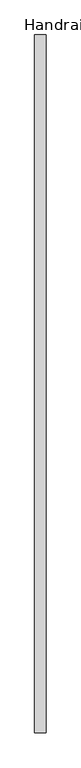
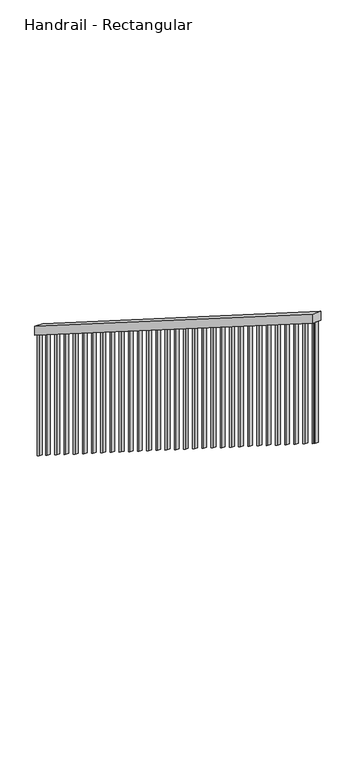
"""IFC4 building model written with IfcOpenShell, lengths in millimetres: railing geometry, Handrail - Rectangular."""

from ifc_helpers import new_model, si_unit, frame, origin, place, context, project, spatial, polyline, outline, extrude, source, transform, mapped, element, save


def handrail_rectangular_c0ad0beb(model_context):
    return source(origin(), model_context, "Body", "SweptSolid", [
        extrude(outline(polyline([(29625.2325698, 737.4193548), (29625.2325698, 677.2854912), (26551.8305304, 2624.0725879), (26551.8305304, 2684.2064516), (29625.2325698, 737.4193548)])), frame((-8661.4851755, 0.0, 0.0), z_axis=(1.0, 0.0, 0.0), x_axis=(0.0, 1.0, 0.0)), (0.0, 0.0, 1.0), 50.8),
        extrude(outline(polyline([(26586.7575698, 2601.9487301), (26586.7575698, 1785.4263775), (26567.7075698, 1797.4932316), (26567.7075698, 2614.0155843), (26586.7575698, 2601.9487301)])), frame((-8645.6101755, 0.0, 0.0), z_axis=(1.0, 0.0, 0.0), x_axis=(0.0, 1.0, 0.0)), (0.0, 0.0, 1.0), 19.05),
        extrude(outline(polyline([(26688.3575698, 2537.5921746), (26688.3575698, 1721.0698219), (26669.3075698, 1733.1366761), (26669.3075698, 2549.6590287), (26688.3575698, 2537.5921746)])), frame((-8645.6101755, 0.0, 0.0), z_axis=(1.0, 0.0, 0.0), x_axis=(0.0, 1.0, 0.0)), (0.0, 0.0, 1.0), 19.05),
        extrude(outline(polyline([(26789.9575698, 2473.2356191), (26789.9575698, 1656.7132664), (26770.9075698, 1668.7801206), (26770.9075698, 2485.3024732), (26789.9575698, 2473.2356191)])), frame((-8645.6101755, 0.0, 0.0), z_axis=(1.0, 0.0, 0.0), x_axis=(0.0, 1.0, 0.0)), (0.0, 0.0, 1.0), 19.05),
        extrude(outline(polyline([(26891.5575698, 2408.8790635), (26891.5575698, 1592.3567109), (26872.5075698, 1604.423565), (26872.5075698, 2420.9459177), (26891.5575698, 2408.8790635)])), frame((-8645.6101755, 0.0, 0.0), z_axis=(1.0, 0.0, 0.0), x_axis=(0.0, 1.0, 0.0)), (0.0, 0.0, 1.0), 19.05),
        extrude(outline(polyline([(26993.1575698, 2344.522508), (26993.1575698, 1528.0001553), (26974.1075698, 1540.0670095), (26974.1075698, 2356.5893621), (26993.1575698, 2344.522508)])), frame((-8645.6101755, 0.0, 0.0), z_axis=(1.0, 0.0, 0.0), x_axis=(0.0, 1.0, 0.0)), (0.0, 0.0, 1.0), 19.05),
        extrude(outline(polyline([(27094.7575698, 2280.1659524), (27094.7575698, 1463.6435998), (27075.7075698, 1475.710454), (27075.7075698, 2292.2328066), (27094.7575698, 2280.1659524)])), frame((-8645.6101755, 0.0, 0.0), z_axis=(1.0, 0.0, 0.0), x_axis=(0.0, 1.0, 0.0)), (0.0, 0.0, 1.0), 19.05),
        extrude(outline(polyline([(27196.3575698, 2215.8093969), (27196.3575698, 1399.2870443), (27177.3075698, 1411.3538984), (27177.3075698, 2227.8762511), (27196.3575698, 2215.8093969)])), frame((-8645.6101755, 0.0, 0.0), z_axis=(1.0, 0.0, 0.0), x_axis=(0.0, 1.0, 0.0)), (0.0, 0.0, 1.0), 19.05),
        extrude(outline(polyline([(27297.9575698, 2151.4528414), (27297.9575698, 1334.9304887), (27278.9075698, 1346.9973429), (27278.9075698, 2163.5196955), (27297.9575698, 2151.4528414)])), frame((-8645.6101755, 0.0, 0.0), z_axis=(1.0, 0.0, 0.0), x_axis=(0.0, 1.0, 0.0)), (0.0, 0.0, 1.0), 19.05),
        extrude(outline(polyline([(27399.5575698, 2087.0962858), (27399.5575698, 1270.5739332), (27380.5075698, 1282.6407874), (27380.5075698, 2099.16314), (27399.5575698, 2087.0962858)])), frame((-8645.6101755, 0.0, 0.0), z_axis=(1.0, 0.0, 0.0), x_axis=(0.0, 1.0, 0.0)), (0.0, 0.0, 1.0), 19.05),
        extrude(outline(polyline([(27501.1575698, 2022.7397303), (27501.1575698, 1206.2173777), (27482.1075698, 1218.2842318), (27482.1075698, 2034.8065845), (27501.1575698, 2022.7397303)])), frame((-8645.6101755, 0.0, 0.0), z_axis=(1.0, 0.0, 0.0), x_axis=(0.0, 1.0, 0.0)), (0.0, 0.0, 1.0), 19.05),
        extrude(outline(polyline([(27602.7575698, 1958.3831748), (27602.7575698, 1141.8608221), (27583.7075698, 1153.9276763), (27583.7075698, 1970.4500289), (27602.7575698, 1958.3831748)])), frame((-8645.6101755, 0.0, 0.0), z_axis=(1.0, 0.0, 0.0), x_axis=(0.0, 1.0, 0.0)), (0.0, 0.0, 1.0), 19.05),
        extrude(outline(polyline([(27704.3575698, 1894.0266192), (27704.3575698, 1077.5042666), (27685.3075698, 1089.5711207), (27685.3075698, 1906.0934734), (27704.3575698, 1894.0266192)])), frame((-8645.6101755, 0.0, 0.0), z_axis=(1.0, 0.0, 0.0), x_axis=(0.0, 1.0, 0.0)), (0.0, 0.0, 1.0), 19.05),
        extrude(outline(polyline([(27805.9575698, 1829.6700637), (27805.9575698, 1013.1477111), (27786.9075698, 1025.2145652), (27786.9075698, 1841.7369179), (27805.9575698, 1829.6700637)])), frame((-8645.6101755, 0.0, 0.0), z_axis=(1.0, 0.0, 0.0), x_axis=(0.0, 1.0, 0.0)), (0.0, 0.0, 1.0), 19.05),
        extrude(outline(polyline([(27907.5575698, 1765.3135082), (27907.5575698, 948.7911555), (27888.5075698, 960.8580097), (27888.5075698, 1777.3803623), (27907.5575698, 1765.3135082)])), frame((-8645.6101755, 0.0, 0.0), z_axis=(1.0, 0.0, 0.0), x_axis=(0.0, 1.0, 0.0)), (0.0, 0.0, 1.0), 19.05),
        extrude(outline(polyline([(28009.1575698, 1700.9569526), (28009.1575698, 884.4346), (27990.1075698, 896.5014541), (27990.1075698, 1713.0238068), (28009.1575698, 1700.9569526)])), frame((-8645.6101755, 0.0, 0.0), z_axis=(1.0, 0.0, 0.0), x_axis=(0.0, 1.0, 0.0)), (0.0, 0.0, 1.0), 19.05),
        extrude(outline(polyline([(28110.7575698, 1636.6003971), (28110.7575698, 820.0780444), (28091.7075698, 832.1448986), (28091.7075698, 1648.6672513), (28110.7575698, 1636.6003971)])), frame((-8645.6101755, 0.0, 0.0), z_axis=(1.0, 0.0, 0.0), x_axis=(0.0, 1.0, 0.0)), (0.0, 0.0, 1.0), 19.05),
        extrude(outline(polyline([(28212.3575698, 1572.2438416), (28212.3575698, 755.7214889), (28193.3075698, 767.7883431), (28193.3075698, 1584.3106957), (28212.3575698, 1572.2438416)])), frame((-8645.6101755, 0.0, 0.0), z_axis=(1.0, 0.0, 0.0), x_axis=(0.0, 1.0, 0.0)), (0.0, 0.0, 1.0), 19.05),
        extrude(outline(polyline([(28313.9575698, 1507.887286), (28313.9575698, 691.3649334), (28294.9075698, 703.4317875), (28294.9075698, 1519.9541402), (28313.9575698, 1507.887286)])), frame((-8645.6101755, 0.0, 0.0), z_axis=(1.0, 0.0, 0.0), x_axis=(0.0, 1.0, 0.0)), (0.0, 0.0, 1.0), 19.05),
        extrude(outline(polyline([(28415.5575698, 1443.5307305), (28415.5575698, 627.0083778), (28396.5075698, 639.075232), (28396.5075698, 1455.5975847), (28415.5575698, 1443.5307305)])), frame((-8645.6101755, 0.0, 0.0), z_axis=(1.0, 0.0, 0.0), x_axis=(0.0, 1.0, 0.0)), (0.0, 0.0, 1.0), 19.05),
        extrude(outline(polyline([(28517.1575698, 1379.174175), (28517.1575698, 562.6518223), (28498.1075698, 574.7186765), (28498.1075698, 1391.2410291), (28517.1575698, 1379.174175)])), frame((-8645.6101755, 0.0, 0.0), z_axis=(1.0, 0.0, 0.0), x_axis=(0.0, 1.0, 0.0)), (0.0, 0.0, 1.0), 19.05),
        extrude(outline(polyline([(28618.7575698, 1314.8176194), (28618.7575698, 498.2952668), (28599.7075698, 510.3621209), (28599.7075698, 1326.8844736), (28618.7575698, 1314.8176194)])), frame((-8645.6101755, 0.0, 0.0), z_axis=(1.0, 0.0, 0.0), x_axis=(0.0, 1.0, 0.0)), (0.0, 0.0, 1.0), 19.05),
        extrude(outline(polyline([(28720.3575698, 1250.4610639), (28720.3575698, 433.9387112), (28701.3075698, 446.0055654), (28701.3075698, 1262.5279181), (28720.3575698, 1250.4610639)])), frame((-8645.6101755, 0.0, 0.0), z_axis=(1.0, 0.0, 0.0), x_axis=(0.0, 1.0, 0.0)), (0.0, 0.0, 1.0), 19.05),
        extrude(outline(polyline([(28821.9575698, 1186.1045084), (28821.9575698, 369.5821557), (28802.9075698, 381.6490099), (28802.9075698, 1198.1713625), (28821.9575698, 1186.1045084)])), frame((-8645.6101755, 0.0, 0.0), z_axis=(1.0, 0.0, 0.0), x_axis=(0.0, 1.0, 0.0)), (0.0, 0.0, 1.0), 19.05),
        extrude(outline(polyline([(28923.5575698, 1121.7479528), (28923.5575698, 305.2256002), (28904.5075698, 317.2924543), (28904.5075698, 1133.814807), (28923.5575698, 1121.7479528)])), frame((-8645.6101755, 0.0, 0.0), z_axis=(1.0, 0.0, 0.0), x_axis=(0.0, 1.0, 0.0)), (0.0, 0.0, 1.0), 19.05),
        extrude(outline(polyline([(29025.1575698, 1057.3913973), (29025.1575698, 240.8690446), (29006.1075698, 252.9358988), (29006.1075698, 1069.4582515), (29025.1575698, 1057.3913973)])), frame((-8645.6101755, 0.0, 0.0), z_axis=(1.0, 0.0, 0.0), x_axis=(0.0, 1.0, 0.0)), (0.0, 0.0, 1.0), 19.05),
        extrude(outline(polyline([(29126.7575698, 993.0348418), (29126.7575698, 176.5124891), (29107.7075698, 188.5793433), (29107.7075698, 1005.1016959), (29126.7575698, 993.0348418)])), frame((-8645.6101755, 0.0, 0.0), z_axis=(1.0, 0.0, 0.0), x_axis=(0.0, 1.0, 0.0)), (0.0, 0.0, 1.0), 19.05),
        extrude(outline(polyline([(29228.3575698, 928.6782862), (29228.3575698, 112.1559336), (29209.3075698, 124.2227877), (29209.3075698, 940.7451404), (29228.3575698, 928.6782862)])), frame((-8645.6101755, 0.0, 0.0), z_axis=(1.0, 0.0, 0.0), x_axis=(0.0, 1.0, 0.0)), (0.0, 0.0, 1.0), 19.05),
        extrude(outline(polyline([(29329.9575698, 864.3217307), (29329.9575698, 47.799378), (29310.9075698, 59.8662322), (29310.9075698, 876.3885849), (29329.9575698, 864.3217307)])), frame((-8645.6101755, 0.0, 0.0), z_axis=(1.0, 0.0, 0.0), x_axis=(0.0, 1.0, 0.0)), (0.0, 0.0, 1.0), 19.05),
        extrude(outline(polyline([(29431.5575698, 799.9651752), (29431.5575698, -16.5571775), (29412.5075698, -4.4903233), (29412.5075698, 812.0320293), (29431.5575698, 799.9651752)])), frame((-8645.6101755, 0.0, 0.0), z_axis=(1.0, 0.0, 0.0), x_axis=(0.0, 1.0, 0.0)), (0.0, 0.0, 1.0), 19.05),
        extrude(outline(polyline([(29533.1575698, 735.6086196), (29533.1575698, -80.913733), (29514.1075698, -68.8468789), (29514.1075698, 747.6754738), (29533.1575698, 735.6086196)])), frame((-8645.6101755, 0.0, 0.0), z_axis=(1.0, 0.0, 0.0), x_axis=(0.0, 1.0, 0.0)), (0.0, 0.0, 1.0), 19.05),
        extrude(outline(polyline([(26570.8805304, 2612.0057338), (26570.8805304, 1795.4833811), (26551.8305304, 1807.5502353), (26551.8305304, 2624.0725879), (26570.8805304, 2612.0057338)])), frame((-8645.6101755, 0.0, 0.0), z_axis=(1.0, 0.0, 0.0), x_axis=(0.0, 1.0, 0.0)), (0.0, 0.0, 1.0), 19.05),
        extrude(outline(polyline([(29625.2325698, 677.2854912), (29625.2325698, -139.2368615), (29606.1825698, -127.1700073), (29606.1825698, 689.3523453), (29625.2325698, 677.2854912)])), frame((-8645.6101755, 0.0, 0.0), z_axis=(1.0, 0.0, 0.0), x_axis=(0.0, 1.0, 0.0)), (0.0, 0.0, 1.0), 19.05),
    ])


if __name__ == "__main__":
    model = new_model("IFC4")
    model_context = context("Model", 3, world=origin())
    ifc_project = project(units=[si_unit("LENGTHUNIT", "METRE", prefix="MILLI")], contexts=[model_context])
    site = spatial("IfcSite", under=ifc_project)
    building = spatial("IfcBuilding", under=site)
    placement = place(None, origin())
    handrail_rectangular_shape = handrail_rectangular_c0ad0beb(model_context)
    element("IfcRailing", 1, ObjectType="Handrail - Rectangular", at=placement, inside=building, context=model_context, shape_type="MappedRepresentation", body=[
        mapped(handrail_rectangular_shape, transform((0.0, 0.0, 0.0), x_axis=(1.0, 0.0, 0.0), y_axis=(0.0, 1.0, 0.0), z_axis=(0.0, 0.0, 1.0))),
    ])
    save(model, "model.ifc")
